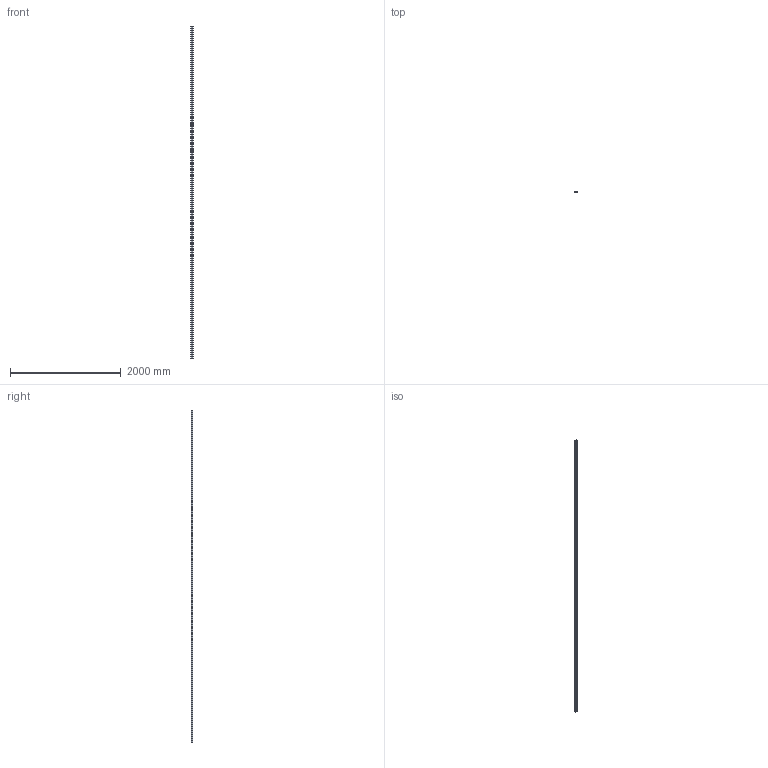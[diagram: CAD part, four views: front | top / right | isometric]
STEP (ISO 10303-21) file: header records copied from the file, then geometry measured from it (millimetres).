
FILE_DESCRIPTION (( 'STEP AP214' ), '1' );
FILE_NAME ('20x40 Slot 6 100mm.STEP', '2017-08-05T19:38:37', ( 'Ahmed' ), ( '' ), 'SwSTEP 2.0', 'SolidWorks 2016', '' );
FILE_SCHEMA (( 'AUTOMOTIVE_DESIGN' ));
Length unit declared in the file: millimetre
Products named in the file (2): 20x40 Slot 6 100mm
Bounding box: 40 x 20 x 6000 mm (x, y, z)
Volume: 1553745.9 mm3; surface area: 2015464 mm2
Topology: 1 solids, 1 shells, 276 faces, 801 edges, 534 vertices
Faces by surface type: plane 164, cylinder 86, bspline 26
Entity records: 10934 total; most frequent: CARTESIAN_POINT 3591, ORIENTED_EDGE 1602, DIRECTION 1425, EDGE_CURVE 801, VECTOR 577, LINE 577, VERTEX_POINT 534, AXIS2_PLACEMENT_3D 424
